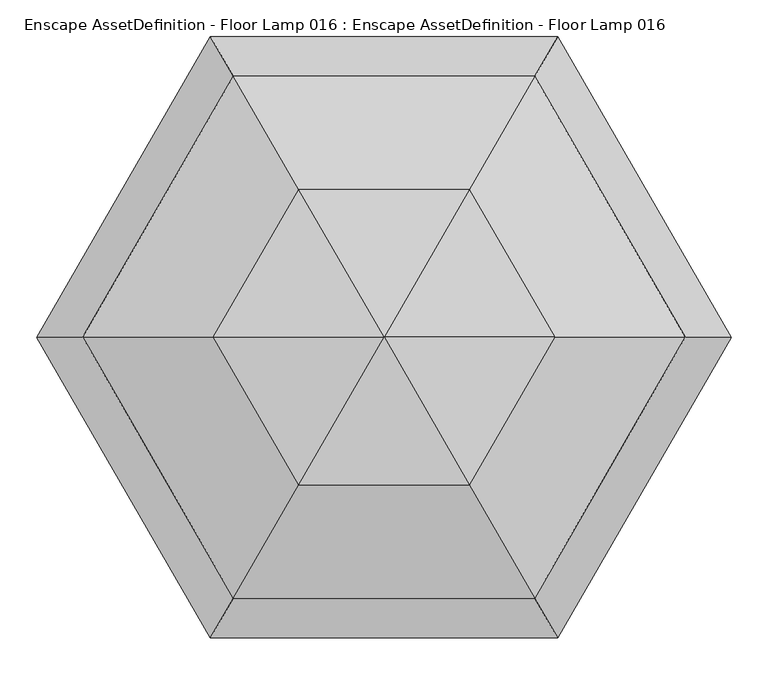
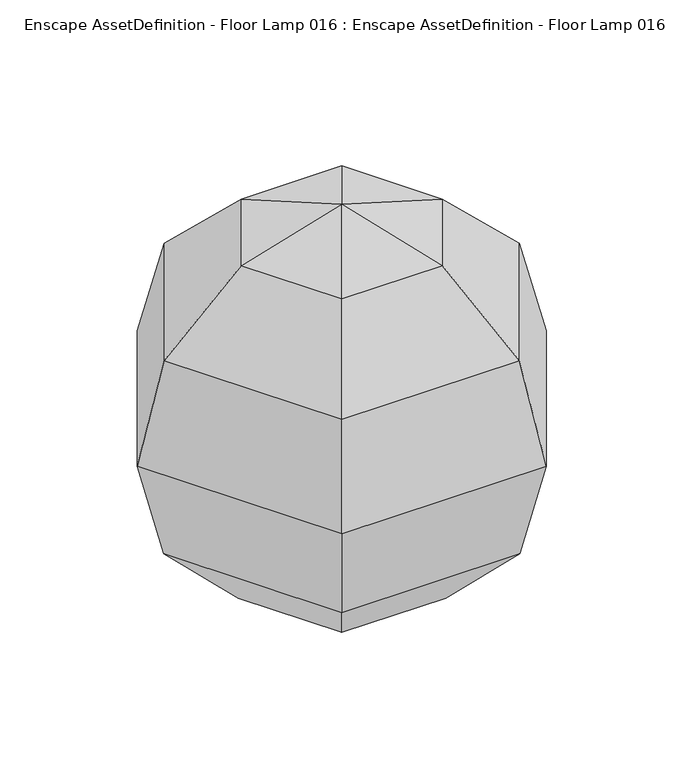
"""IFC4 building model written with IfcOpenShell, lengths in millimetres: geographic element geometry, Enscape AssetDefinition - Floor Lamp 016 : Enscape AssetDefinition - Floor Lamp 016."""

from ifc_helpers import new_model, si_unit, origin, place, context, project, spatial, triangles, source, transform, mapped, element, save


def enscape_assetdefinition_floor_lamp_016_enscape_4e544922(model_context):
    return source(origin(), model_context, "Body", "Tessellation", [
        triangles([(-206.2230047, -357.1879724, 642.2900105), (-412.444992, 0.0, 642.2900105), (-475.3609918, 0.0, 405.0750203), (-206.2220055, 357.1879724, 642.2900105), (0.0, 0.0, 881.8349819), (-233.6329958, 0.0, 812.9989946), (-116.8169975, -202.3319994, 812.9989946), (-116.8159983, 202.3319994, 812.9989946), (-237.6800054, 411.6750172, 405.0750203), (-120.5220039, 208.7499943, -0.717), (-206.6379866, 357.9080229, 167.8819947), (-241.0440079, 0.0, -0.717), (206.6379866, 357.9080229, 167.8819947), (237.6810046, 411.6750172, 405.0750203), (120.5220039, 208.7499943, -0.717), (475.3609918, 0.0, 405.0750203), (120.5220039, -208.7499943, -0.717), (-413.2769906, 0.0, 167.8819947), (-120.5220039, -208.7499943, -0.717), (413.2769906, 0.0, 167.8819947), (206.6379866, -357.9080229, 167.8819947), (241.0440079, 0.0, -0.717), (206.2230047, 357.1879724, 642.2900105), (-237.6810046, -411.6750172, 405.0750203), (237.6800054, -411.6750172, 405.0750203), (-206.639004, -357.9080229, 167.8819947), (206.2220055, -357.1879724, 642.2900105), (233.6329958, 0.0, 812.9989946), (412.444992, 0.0, 642.2900105), (116.8169975, 202.3319994, 812.9989946), (116.8159983, -202.3319994, 812.9989946)], [[5, 7, 31], [1, 31, 7], [5, 31, 28], [5, 30, 8], [5, 28, 30], [23, 8, 30], [29, 23, 30], [29, 30, 28], [27, 29, 28], [1, 27, 31], [27, 28, 31], [24, 27, 1], [18, 26, 24], [18, 19, 26], [26, 19, 17], [21, 17, 22], [26, 17, 21], [26, 21, 25], [24, 25, 27], [26, 25, 24], [25, 29, 27], [25, 16, 29], [16, 23, 29], [25, 21, 20], [21, 22, 20], [25, 20, 16], [15, 22, 17], [20, 22, 15], [17, 19, 12], [18, 12, 19], [12, 15, 17], [12, 10, 15], [13, 15, 10], [16, 20, 13], [20, 15, 13], [16, 14, 23], [16, 13, 14], [11, 10, 12], [14, 13, 11], [11, 12, 18], [13, 10, 11], [11, 18, 3], [18, 24, 3], [11, 3, 9], [14, 11, 9], [14, 9, 4], [23, 4, 8], [14, 4, 23], [5, 8, 6], [5, 6, 7], [4, 6, 8], [9, 3, 2], [2, 3, 24], [4, 2, 6], [2, 1, 7], [9, 2, 4], [2, 24, 1], [2, 7, 6]]),
    ])


if __name__ == "__main__":
    model = new_model("IFC4")
    model_context = context("Model", 3, world=origin())
    ifc_project = project(units=[si_unit("LENGTHUNIT", "METRE", prefix="MILLI")], contexts=[model_context])
    site = spatial("IfcSite", under=ifc_project)
    building = spatial("IfcBuilding", under=site)
    placement = place(None, origin())
    enscape_assetdefinition_floor_lamp_016_enscape_shape = enscape_assetdefinition_floor_lamp_016_enscape_4e544922(model_context)
    element("IfcGeographicElement", 1, ObjectType="Enscape AssetDefinition - Floor Lamp 016 : Enscape AssetDefinition - Floor Lamp 016", at=placement, inside=building, context=model_context, shape_type="MappedRepresentation", body=[
        mapped(enscape_assetdefinition_floor_lamp_016_enscape_shape, transform((0.0, 0.0, 0.0), x_axis=(1.0, 0.0, 0.0), y_axis=(0.0, 1.0, 0.0), z_axis=(0.0, 0.0, 1.0))),
    ])
    save(model, "model.ifc")
